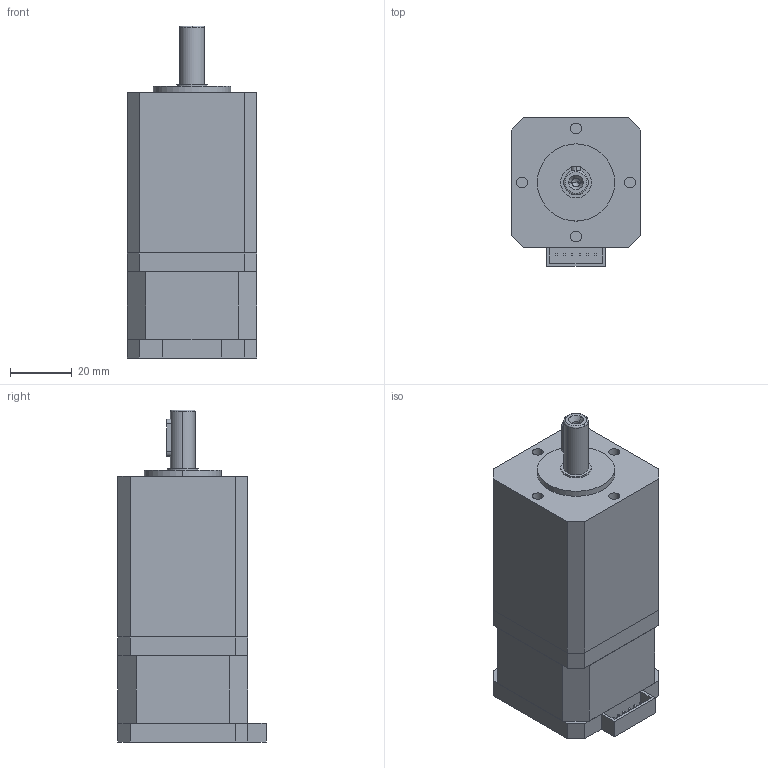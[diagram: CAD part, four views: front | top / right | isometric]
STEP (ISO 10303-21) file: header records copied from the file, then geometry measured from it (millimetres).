
FILE_DESCRIPTION (( 'STEP AP203' ), '1' );
FILE_NAME ('42PG020-D14-0434.STEP', '2019-10-12T08:20:49', ( 'China' ), ( 'Home' ), 'SwSTEP 2.0', 'SolidWorks 2016', '' );
FILE_SCHEMA (( 'CONFIG_CONTROL_DESIGN' ));
Length unit declared in the file: millimetre
Products named in the file (1): 42PG020-D14-0434
Bounding box: 42 x 48 x 107.5 mm (x, y, z)
Volume: 150136.5 mm3; surface area: 28978.7 mm2
Topology: 5 solids, 5 shells, 115 faces, 269 edges, 177 vertices
Faces by surface type: plane 90, cylinder 19, cone 4, torus 2
Entity records: 3312 total; most frequent: CARTESIAN_POINT 560, DIRECTION 545, ORIENTED_EDGE 534, EDGE_CURVE 267, VECTOR 221, LINE 221, VERTEX_POINT 177, AXIS2_PLACEMENT_3D 162
